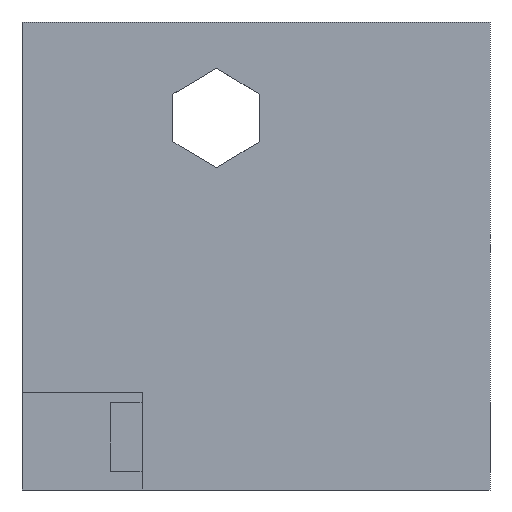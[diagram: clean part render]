
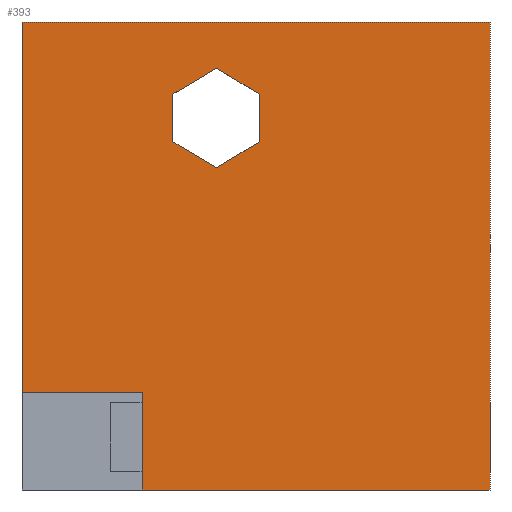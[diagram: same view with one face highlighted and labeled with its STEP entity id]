
A CAD part, front view. The second image highlights one B-rep face of the part: STEP entity #393.
In plain terms, the highlighted planar face has unit normal (0, -1, 0).
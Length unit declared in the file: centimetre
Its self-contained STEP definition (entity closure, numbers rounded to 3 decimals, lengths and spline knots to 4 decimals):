
#4 = CARTESIAN_POINT ( 'NONE',  ( 0., 0., 0. ) ) ;
#15 = EDGE_CURVE ( 'NONE', #786, #494, #689, .T. ) ;
#38 = LINE ( 'NONE', #1194, #156 ) ;
#45 = DIRECTION ( 'NONE',  ( 0., 0., -1. ) ) ;
#68 = CARTESIAN_POINT ( 'NONE',  ( 1000., 0., 0. ) ) ;
#77 = CARTESIAN_POINT ( 'NONE',  ( 0., 0., 208.9302 ) ) ;
#90 = EDGE_CURVE ( 'NONE', #1002, #1314, #799, .T. ) ;
#99 = ORIENTED_EDGE ( 'NONE', *, *, #1342, .F. ) ;
#122 = VECTOR ( 'NONE', #490, 100. ) ;
#125 = ORIENTED_EDGE ( 'NONE', *, *, #1141, .T. ) ;
#147 = CARTESIAN_POINT ( 'NONE',  ( 256.4856, 0., 208.9302 ) ) ;
#148 = EDGE_LOOP ( 'NONE', ( #125, #757, #666, #1230, #99, #779 ) ) ;
#156 = VECTOR ( 'NONE', #1101, 100. ) ;
#174 = LINE ( 'NONE', #290, #968 ) ;
#214 = VERTEX_POINT ( 'NONE', #1225 ) ;
#232 = FACE_OUTER_BOUND ( 'NONE', #148, .T. ) ;
#240 = ORIENTED_EDGE ( 'NONE', *, *, #609, .T. ) ;
#270 = LINE ( 'NONE', #390, #724 ) ;
#290 = CARTESIAN_POINT ( 'NONE',  ( 416.0289, 0., 688.4814 ) ) ;
#298 = EDGE_CURVE ( 'NONE', #1259, #712, #696, .T. ) ;
#323 = ORIENTED_EDGE ( 'NONE', *, *, #1309, .T. ) ;
#327 = VECTOR ( 'NONE', #478, 100. ) ;
#344 = EDGE_CURVE ( 'NONE', #717, #1364, #654, .T. ) ;
#348 = DIRECTION ( 'NONE',  ( 0.853, 0., -0.522 ) ) ;
#366 = VECTOR ( 'NONE', #1033, 100. ) ;
#390 = CARTESIAN_POINT ( 'NONE',  ( 506.837, 0., 845.7656 ) ) ;
#393 = ADVANCED_FACE ( 'NONE', ( #634, #232 ), #628, .F. ) ;
#435 = CARTESIAN_POINT ( 'NONE',  ( 506.837, 0., 744.0929 ) ) ;
#446 = DIRECTION ( 'NONE',  ( 0., 0., 1. ) ) ;
#459 = VERTEX_POINT ( 'NONE', #770 ) ;
#478 = DIRECTION ( 'NONE',  ( 1., 0., 0. ) ) ;
#490 = DIRECTION ( 'NONE',  ( -1., 0., 0. ) ) ;
#494 = VERTEX_POINT ( 'NONE', #575 ) ;
#503 = CARTESIAN_POINT ( 'NONE',  ( 322.4638, 0., 744.0929 ) ) ;
#516 = DIRECTION ( 'NONE',  ( 0., 0., 1. ) ) ;
#562 = CARTESIAN_POINT ( 'NONE',  ( 0., 0., 1000. ) ) ;
#564 = ORIENTED_EDGE ( 'NONE', *, *, #344, .T. ) ;
#568 = LINE ( 'NONE', #1304, #1041 ) ;
#575 = CARTESIAN_POINT ( 'NONE',  ( 322.4638, 0., 845.7656 ) ) ;
#586 = EDGE_CURVE ( 'NONE', #494, #214, #568, .T. ) ;
#598 = DIRECTION ( 'NONE',  ( 0., 0., -1. ) ) ;
#609 = EDGE_CURVE ( 'NONE', #214, #975, #1006, .T. ) ;
#612 = EDGE_LOOP ( 'NONE', ( #240, #1043, #564, #323, #627, #1176 ) ) ;
#627 = ORIENTED_EDGE ( 'NONE', *, *, #15, .T. ) ;
#628 = PLANE ( 'NONE',  #1137 ) ;
#634 = FACE_BOUND ( 'NONE', #612, .T. ) ;
#639 = VERTEX_POINT ( 'NONE', #562 ) ;
#654 = LINE ( 'NONE', #435, #1335 ) ;
#664 = CARTESIAN_POINT ( 'NONE',  ( 0., 0., 208.9302 ) ) ;
#666 = ORIENTED_EDGE ( 'NONE', *, *, #668, .F. ) ;
#668 = EDGE_CURVE ( 'NONE', #1002, #1259, #758, .T. ) ;
#689 = LINE ( 'NONE', #902, #366 ) ;
#696 = LINE ( 'NONE', #77, #122 ) ;
#705 = LINE ( 'NONE', #1127, #1107 ) ;
#707 = VECTOR ( 'NONE', #446, 100. ) ;
#712 = VERTEX_POINT ( 'NONE', #664 ) ;
#717 = VERTEX_POINT ( 'NONE', #1199 ) ;
#724 = VECTOR ( 'NONE', #598, 100. ) ;
#756 = CARTESIAN_POINT ( 'NONE',  ( 0., 0., 1000. ) ) ;
#757 = ORIENTED_EDGE ( 'NONE', *, *, #298, .F. ) ;
#758 = LINE ( 'NONE', #879, #707 ) ;
#770 = CARTESIAN_POINT ( 'NONE',  ( 1000., 0., 1000. ) ) ;
#772 = CARTESIAN_POINT ( 'NONE',  ( 416.0289, 0., 901.3772 ) ) ;
#779 = ORIENTED_EDGE ( 'NONE', *, *, #1334, .F. ) ;
#786 = VERTEX_POINT ( 'NONE', #503 ) ;
#799 = LINE ( 'NONE', #4, #1340 ) ;
#849 = DIRECTION ( 'NONE',  ( -0.853, 0., -0.522 ) ) ;
#879 = CARTESIAN_POINT ( 'NONE',  ( 256.4856, 0., 0. ) ) ;
#894 = DIRECTION ( 'NONE',  ( 0.86, 0., 0.511 ) ) ;
#902 = CARTESIAN_POINT ( 'NONE',  ( 322.4638, 0., 744.0929 ) ) ;
#918 = DIRECTION ( 'NONE',  ( -0.86, 0., 0.511 ) ) ;
#925 = VECTOR ( 'NONE', #348, 100. ) ;
#968 = VECTOR ( 'NONE', #918, 100. ) ;
#975 = VERTEX_POINT ( 'NONE', #1346 ) ;
#1001 = LINE ( 'NONE', #1227, #327 ) ;
#1002 = VERTEX_POINT ( 'NONE', #1053 ) ;
#1006 = LINE ( 'NONE', #772, #925 ) ;
#1033 = DIRECTION ( 'NONE',  ( 0., 0., 1. ) ) ;
#1041 = VECTOR ( 'NONE', #894, 100. ) ;
#1043 = ORIENTED_EDGE ( 'NONE', *, *, #1368, .T. ) ;
#1053 = CARTESIAN_POINT ( 'NONE',  ( 256.4856, 0., 0. ) ) ;
#1101 = DIRECTION ( 'NONE',  ( 0., 0., -1. ) ) ;
#1107 = VECTOR ( 'NONE', #45, 100. ) ;
#1127 = CARTESIAN_POINT ( 'NONE',  ( 1000., 0., 1000. ) ) ;
#1137 = AXIS2_PLACEMENT_3D ( 'NONE', #756, #1177, #516 ) ;
#1141 = EDGE_CURVE ( 'NONE', #639, #712, #38, .T. ) ;
#1142 = DIRECTION ( 'NONE',  ( 1., 0., 0. ) ) ;
#1176 = ORIENTED_EDGE ( 'NONE', *, *, #586, .T. ) ;
#1177 = DIRECTION ( 'NONE',  ( 0., 1., 0. ) ) ;
#1194 = CARTESIAN_POINT ( 'NONE',  ( 0., 0., 1000. ) ) ;
#1199 = CARTESIAN_POINT ( 'NONE',  ( 506.837, 0., 744.0929 ) ) ;
#1225 = CARTESIAN_POINT ( 'NONE',  ( 416.0289, 0., 901.3772 ) ) ;
#1227 = CARTESIAN_POINT ( 'NONE',  ( 0., 0., 1000. ) ) ;
#1230 = ORIENTED_EDGE ( 'NONE', *, *, #90, .T. ) ;
#1259 = VERTEX_POINT ( 'NONE', #147 ) ;
#1304 = CARTESIAN_POINT ( 'NONE',  ( 322.4638, 0., 845.7656 ) ) ;
#1309 = EDGE_CURVE ( 'NONE', #1364, #786, #174, .T. ) ;
#1314 = VERTEX_POINT ( 'NONE', #68 ) ;
#1333 = CARTESIAN_POINT ( 'NONE',  ( 416.0289, 0., 688.4814 ) ) ;
#1334 = EDGE_CURVE ( 'NONE', #639, #459, #1001, .T. ) ;
#1335 = VECTOR ( 'NONE', #849, 100. ) ;
#1340 = VECTOR ( 'NONE', #1142, 100. ) ;
#1342 = EDGE_CURVE ( 'NONE', #459, #1314, #705, .T. ) ;
#1346 = CARTESIAN_POINT ( 'NONE',  ( 506.837, 0., 845.7656 ) ) ;
#1364 = VERTEX_POINT ( 'NONE', #1333 ) ;
#1368 = EDGE_CURVE ( 'NONE', #975, #717, #270, .T. ) ;
